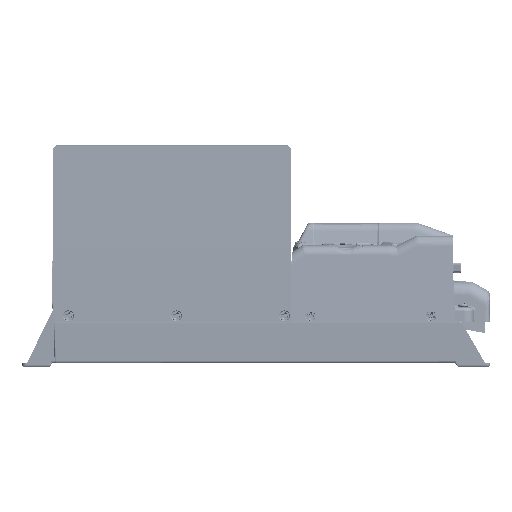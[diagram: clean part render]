
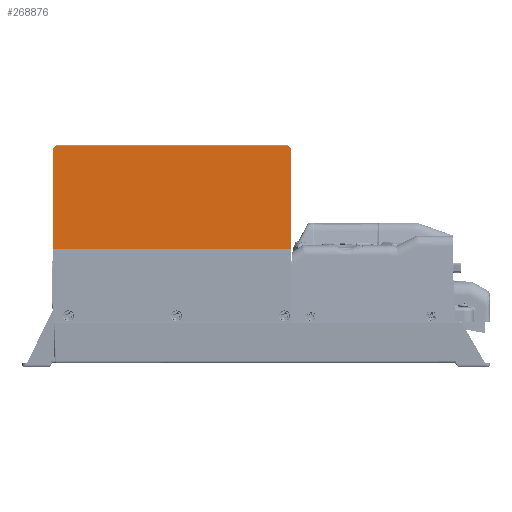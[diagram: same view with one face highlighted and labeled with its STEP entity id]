
A CAD part, left-side view. The second image highlights one B-rep face of the part: STEP entity #268876.
In plain terms, the highlighted planar face has unit normal (-1, 0, 0.009).
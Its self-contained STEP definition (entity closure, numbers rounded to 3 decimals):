
#8958=PLANE('',#285492);
#27088=LINE('',#496603,#42943);
#27160=LINE('',#496833,#43015);
#27457=LINE('',#497896,#43312);
#27463=LINE('',#497905,#43318);
#27464=LINE('',#497907,#43319);
#27465=LINE('',#497909,#43320);
#42943=VECTOR('',#323586,1000.);
#43015=VECTOR('',#323762,1000.);
#43312=VECTOR('',#324715,1000.);
#43318=VECTOR('',#324727,1000.);
#43319=VECTOR('',#324728,1000.);
#43320=VECTOR('',#324729,1000.);
#90918=ORIENTED_EDGE('',*,*,#128649,.F.);
#90919=ORIENTED_EDGE('',*,*,#129133,.T.);
#90920=ORIENTED_EDGE('',*,*,#129134,.T.);
#90921=ORIENTED_EDGE('',*,*,#129135,.F.);
#90922=ORIENTED_EDGE('',*,*,#128543,.F.);
#90923=ORIENTED_EDGE('',*,*,#129127,.F.);
#128543=EDGE_CURVE('',#150769,#150770,#27088,.T.);
#128649=EDGE_CURVE('',#150875,#150876,#27160,.T.);
#129127=EDGE_CURVE('',#150876,#150769,#27457,.T.);
#129133=EDGE_CURVE('',#150875,#151194,#27463,.T.);
#129134=EDGE_CURVE('',#151194,#151195,#27464,.T.);
#129135=EDGE_CURVE('',#150770,#151195,#27465,.T.);
#150769=VERTEX_POINT('',#496602);
#150770=VERTEX_POINT('',#496604);
#150875=VERTEX_POINT('',#496832);
#150876=VERTEX_POINT('',#496834);
#151194=VERTEX_POINT('',#497906);
#151195=VERTEX_POINT('',#497908);
#171286=EDGE_LOOP('',(#90918,#90919,#90920,#90921,#90922,#90923));
#184526=FACE_BOUND('',#171286,.T.);
#268876=ADVANCED_FACE('',(#184526),#8958,.T.);
#285492=AXIS2_PLACEMENT_3D('',#497904,#324725,#324726);
#323586=DIRECTION('',(-0.007,-0.707,-0.707));
#323762=DIRECTION('',(0.007,-0.707,0.707));
#324715=DIRECTION('',(0.,-1.,0.));
#324725=DIRECTION('',(-1.,0.,0.009));
#324726=DIRECTION('',(0.009,0.,1.));
#324727=DIRECTION('',(-0.009,0.,-1.));
#324728=DIRECTION('',(0.,-1.,0.));
#324729=DIRECTION('',(-0.009,0.,-1.));
#496602=CARTESIAN_POINT('',(-110.357,-181.627,126.457));
#496603=CARTESIAN_POINT('',(-109.502,-90.448,217.636));
#496604=CARTESIAN_POINT('',(-110.369,-182.884,125.2));
#496832=CARTESIAN_POINT('',(-110.369,-0.004,125.2));
#496833=CARTESIAN_POINT('',(-110.359,-1.004,126.2));
#496834=CARTESIAN_POINT('',(-110.357,-1.261,126.457));
#497896=CARTESIAN_POINT('',(-110.357,-0.004,126.457));
#497904=CARTESIAN_POINT('',(-110.35,-0.004,127.2));
#497905=CARTESIAN_POINT('',(-110.35,-0.004,127.2));
#497906=CARTESIAN_POINT('',(-111.1,-0.004,47.2));
#497907=CARTESIAN_POINT('',(-111.1,-0.004,47.2));
#497908=CARTESIAN_POINT('',(-111.1,-182.884,47.2));
#497909=CARTESIAN_POINT('',(-110.35,-182.884,127.2));
